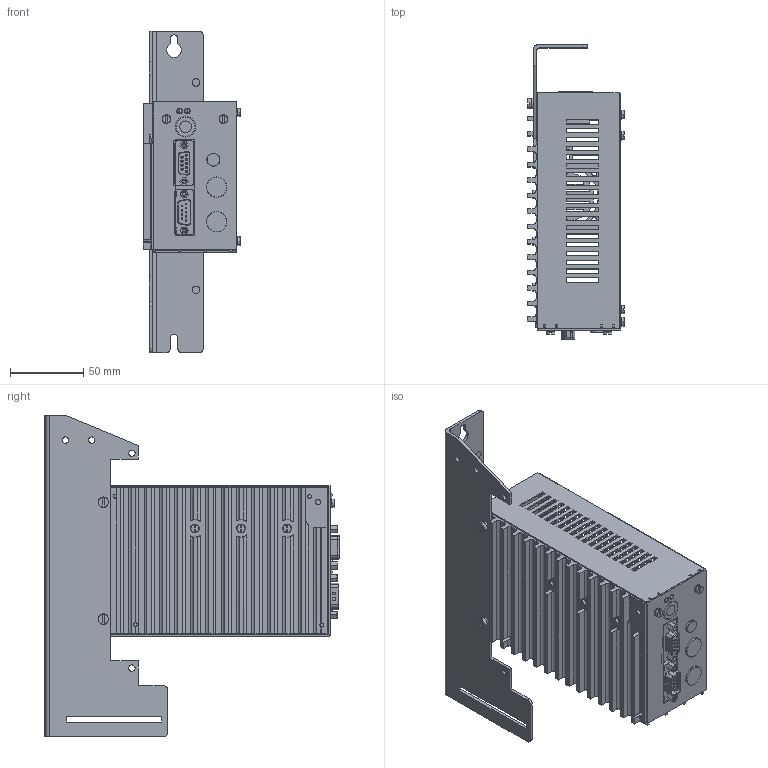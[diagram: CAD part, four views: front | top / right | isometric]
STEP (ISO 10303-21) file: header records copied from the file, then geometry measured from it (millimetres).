
FILE_DESCRIPTION(('STEP AP214'),'1');
FILE_NAME('R:/Manufacturing/Mechanikzeichnungen/RBD_325_4-6S_2p1_v.stp','2015-11-26T08:58:52',(''),(''),'Spatial InterOp 3D',' ',' ');
FILE_SCHEMA(('automotive_design'));
Length unit declared in the file: inch
Products named in the file (47): ACIS-VolumenkÃ¶rper_46; ACIS-VolumenkÃ¶rper_51; ACIS-VolumenkÃ¶rper_53; ACIS-VolumenkÃ¶rper_54; ACIS-VolumenkÃ¶rper_55; ACIS-VolumenkÃ¶rper_56; ACIS-VolumenkÃ¶rper_58; ACIS-VolumenkÃ¶rper_59; ACIS-VolumenkÃ¶rper_60; ACIS-VolumenkÃ¶rper_61; ACIS-VolumenkÃ¶rper_62; ACIS-VolumenkÃ¶rper_63; ACIS-VolumenkÃ¶rper_64; ACIS-VolumenkÃ¶rper_65; ACIS-VolumenkÃ¶rper_66; ACIS-VolumenkÃ¶rper_67; ACIS-VolumenkÃ¶rper_68; ACIS-VolumenkÃ¶rper_69; ACIS-VolumenkÃ¶rper_70; ACIS-VolumenkÃ¶rper_71; ACIS-VolumenkÃ¶rper_73; ACIS-VolumenkÃ¶rper_74; ACIS-VolumenkÃ¶rper_75; ACIS-VolumenkÃ¶rper_76; ACIS-VolumenkÃ¶rper_77; ACIS-VolumenkÃ¶rper_78; ACIS-VolumenkÃ¶rper_79; ACIS-VolumenkÃ¶rper_80; ACIS-VolumenkÃ¶rper_81; ACIS-VolumenkÃ¶rper_82; ACIS-VolumenkÃ¶rper_83; ACIS-VolumenkÃ¶rper_84; ACIS-VolumenkÃ¶rper_85; ACIS-VolumenkÃ¶rper_86; ACIS-VolumenkÃ¶rper_113; ACIS-VolumenkÃ¶rper_740; ACIS-VolumenkÃ¶rper_765; ACIS-VolumenkÃ¶rper_792; ACIS-VolumenkÃ¶rper_1384; ACIS-VolumenkÃ¶rper_3284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
Bounding box: 66.5 x 201.22 x 220 mm (x, y, z)
Volume: 224883.7 mm3; surface area: 226190.6 mm2
Topology: 47 solids, 47 shells, 3687 faces, 9061 edges, 5741 vertices
Faces by surface type: plane 2835, cylinder 674, cone 104, sphere 64, torus 6, bspline 4
Entity records: 138402 total; most frequent: CARTESIAN_POINT 19390, DIRECTION 18142, ORIENTED_EDGE 18114, EDGE_CURVE 9057, LINE 6996, VECTOR 6996, VERTEX_POINT 5741, AXIS2_PLACEMENT_3D 5573
